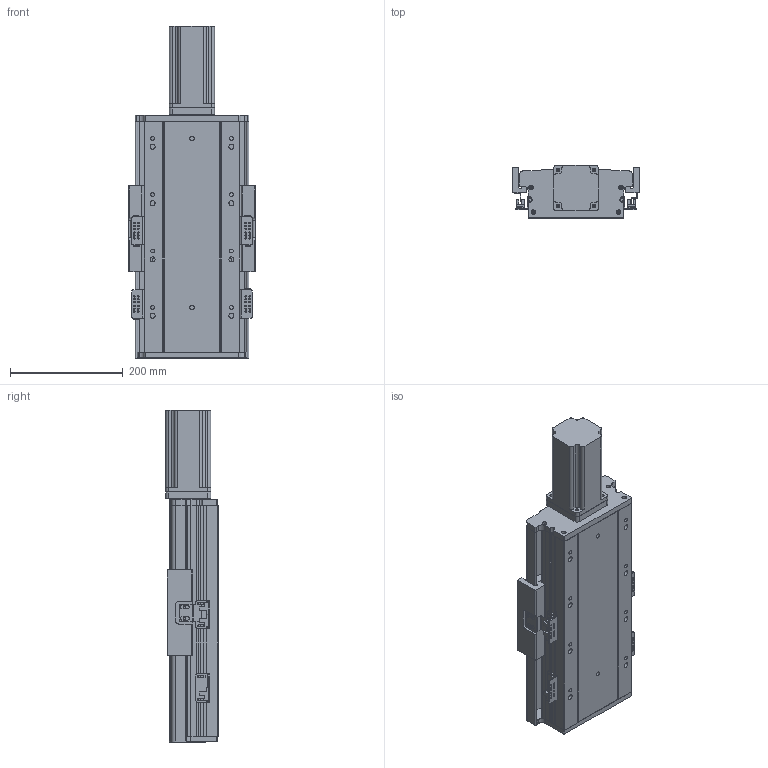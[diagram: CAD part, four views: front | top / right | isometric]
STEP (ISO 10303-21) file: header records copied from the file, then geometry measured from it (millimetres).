
FILE_DESCRIPTION (( 'STEP AP203' ), '1' );
FILE_NAME ('RY170FB-L2510-300-MK.SLDASM_100.step', '2021-02-22T08:56:19', ( '盈信电脑' ), ( '东莞市道滘镇水果街19号' ), 'SwSTEP 2.0', 'SolidWorks 2012', '' );
FILE_SCHEMA (( 'CONFIG_CONTROL_DESIGN' ));
Length unit declared in the file: millimetre
Products named in the file (16): RY170FB-300倰第菁釱-MK_100; RY170FB-L2510-300-MK.SLDASM_100; RY140FB-覜茼え; RY140FB-674嫖萇覜茼え; RY140-674嫖萇耀輸; 覜茼ん674; RY140直线电机感应器674光电安装座; 750W萇儂梓袧蛌諉啣; 侂狟750W萇儂ㄗ80遺ㄘ; 滅袉蝶18-28; RY170FB-铝滑块(25丝杆）; RY170FB-300奻裔_100; 滅袉蝶18-10; RY170FB-ヶ裔啣; RY170FB-綴裔啣
Assembly tree (20 placements, depth 3):
  RY170FB-L2510-300-MK.SLDASM_100
    RY170FB-300倰第菁釱-MK_100
    RY170FB-綴裔啣
    RY170FB-ヶ裔啣
    滅袉蝶18-28
    滅袉蝶18-10
    RY170FB-铝滑块(25丝杆）
    RY170FB-300奻裔_100
    750W萇儂梓袧蛌諉啣
    侂狟750W萇儂ㄗ80遺ㄘ
    RY140-674嫖萇耀輸  x2
      覜茼ん674
      RY140直线电机感应器674光电安装座
    RY140FB-674嫖萇覜茼え
    RY140-674嫖萇耀輸  x2
      覜茼ん674
      RY140直线电机感应器674光电安装座
    RY140FB-覜茼え
Bounding box: 225 x 93.2 x 589.5 mm (x, y, z)
Volume: 3746807.8 mm3; surface area: 944278.1 mm2
Topology: 21 solids, 21 shells, 1499 faces, 4165 edges, 2696 vertices
Faces by surface type: plane 761, cylinder 662, cone 76
Entity records: 35925 total; most frequent: CARTESIAN_POINT 7018, DIRECTION 5757, ORIENTED_EDGE 5630, EDGE_CURVE 2815, AXIS2_PLACEMENT_3D 2071, VERTEX_POINT 1850, VECTOR 1615, LINE 1615
